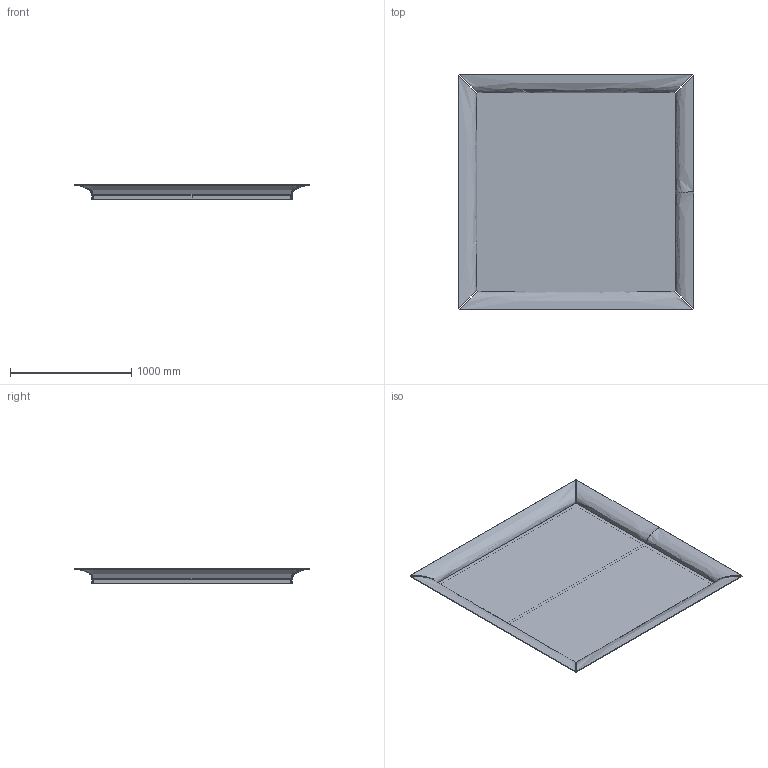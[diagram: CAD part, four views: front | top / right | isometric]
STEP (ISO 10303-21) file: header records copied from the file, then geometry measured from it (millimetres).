
FILE_DESCRIPTION(/* description */ (''),/* implementation_level */ '2;1');
FILE_NAME(/* name */ '444S - Caadre - 195x195',/* time_stamp */ '2010-11-02T14:27:01+01:00',/* author */ (''),/* organization */ (''),/* preprocessor_version */ 'ST-DEVELOPER v10',/* originating_system */ '',/* authorisation */ '');
FILE_SCHEMA (('CONFIG_CONTROL_DESIGN'));
Length unit declared in the file: centimetre
Products named in the file (1): 1
Bounding box: 1946 x 1946 x 119 mm (x, y, z)
Volume: 32653202.8 mm3; surface area: 9579446.1 mm2
Topology: 6 solids, 6 shells, 68 faces, 156 edges, 96 vertices
Faces by surface type: bspline 46, plane 22
Entity records: 3708 total; most frequent: CARTESIAN_POINT 2570, ORIENTED_EDGE 312, EDGE_CURVE 156, B_SPLINE_CURVE_WITH_KNOTS 156, VERTEX_POINT 96, ADVANCED_FACE 68, FACE_OUTER_BOUND 68, EDGE_LOOP 68
